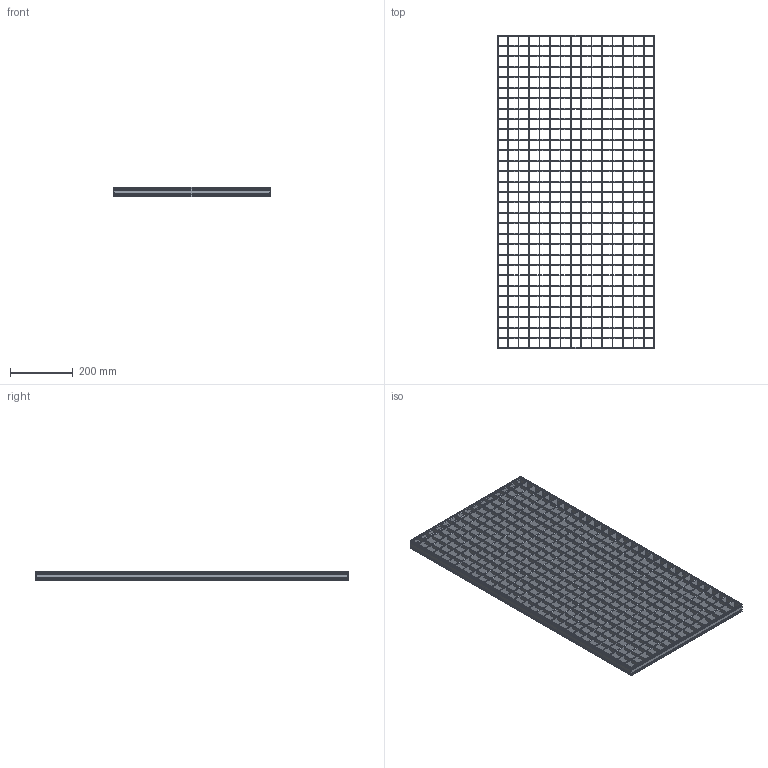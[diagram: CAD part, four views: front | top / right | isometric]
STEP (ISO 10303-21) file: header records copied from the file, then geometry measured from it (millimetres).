
FILE_DESCRIPTION(/* description */ ('STEP AP242','CAx-IF Rec.Pracs.---Representation and Presentation of Product Manufacturing Information (PMI)---4.0---2014-10-13','CAx-IF Rec.Pracs.---3D Tessellated Geometry---0.4---2014-09-14','2;1'),/* implementation_level */ '2;1');
FILE_NAME(/* name */ 'Lichtgitter_Pressure_locked_gratings P 330-33-3-1-1-500-1000_(350_0)',/* time_stamp */ '2026-04-22T14:01:50+02:00',/* author */ ('License CC BY-ND 4.0'),/* organization */ ('CADENAS'),/* preprocessor_version */ 'ST-DEVELOPER v20',/* originating_system */ 'PARTsolutions',/* authorisation */ ' ');
FILE_SCHEMA (('AP242_MANAGED_MODEL_BASED_3D_ENGINEERING_MIM_LF { 1 0 10303 442 1 1 4 }'));
Length unit declared in the file: millimetre
Products named in the file (5): Lichtgitter_Pressure_locked_gratings P 330-33-3-1-1-500-1000_(350_0); Lichtgitter P 330-33-3_(Pressroste_350_1_1000_500)_VERTICAL; Lichtgitter P 330-33-3_(Pressroste_350_1_1000_500)_HORIZONTAL_C; Lichtgitter P 330-33-3_(Pressroste_350_1_1000_500)_HORIZONTAL; Lichtgitter P 330-33-3_(Pressroste_350_1_1000_500)_VERTICAL_C
Assembly tree (47 placements, depth 2):
  Lichtgitter_Pressure_locked_gratings P 330-33-3-1-1-500-1000_(350_0)
    Lichtgitter P 330-33-3_(Pressroste_350_1_1000_500)_VERTICAL  x2
    Lichtgitter P 330-33-3_(Pressroste_350_1_1000_500)_HORIZONTAL_C  x29
    Lichtgitter P 330-33-3_(Pressroste_350_1_1000_500)_HORIZONTAL  x2
    Lichtgitter P 330-33-3_(Pressroste_350_1_1000_500)_VERTICAL_C  x14
Bounding box: 500 x 1000 x 30 mm (x, y, z)
Volume: 1804801.4 mm3; surface area: 1499429.2 mm2
Topology: 47 solids, 47 shells, 1954 faces, 5580 edges, 3720 vertices
Faces by surface type: plane 1922, cylinder 32
Entity records: 3747 total; most frequent: CARTESIAN_POINT 632, DIRECTION 624, ORIENTED_EDGE 576, EDGE_CURVE 288, LINE 256, VECTOR 256, VERTEX_POINT 192, AXIS2_PLACEMENT_3D 184
